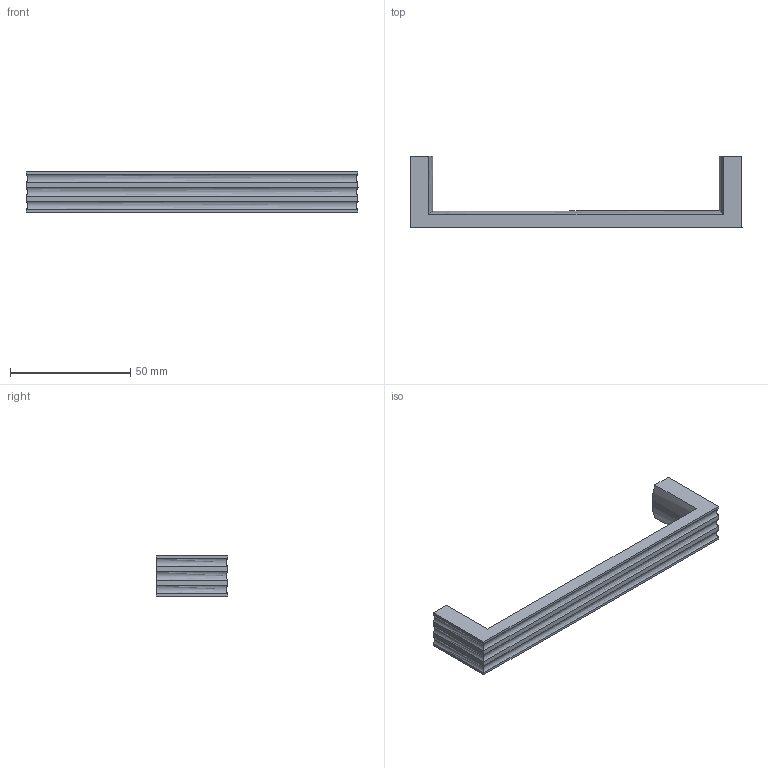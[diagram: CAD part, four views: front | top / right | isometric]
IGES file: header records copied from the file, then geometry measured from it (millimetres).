
Start section: Data from Parasolid IGES Translator 15.0.47, Copyright(c) 2006 Siemens P LM Software. All Rights Reserved.
Global section: file name: 9208030.igs; native system:  By UGS Corp.; preprocessor: XPlus GENERIC/IGES 3.0; author: Noname; organization: Noname; date: 20160301.161246; units: millimetre
Bounding box: 138.3 x 29.8 x 16.7 mm (x, y, z)
Surface area: 9091.8 mm2 (no closed solid volume)
Topology: 0 solids, 0 shells, 32 faces, 144 edges, 142 vertices
Faces by surface type: extrusion 18, revolution 14
